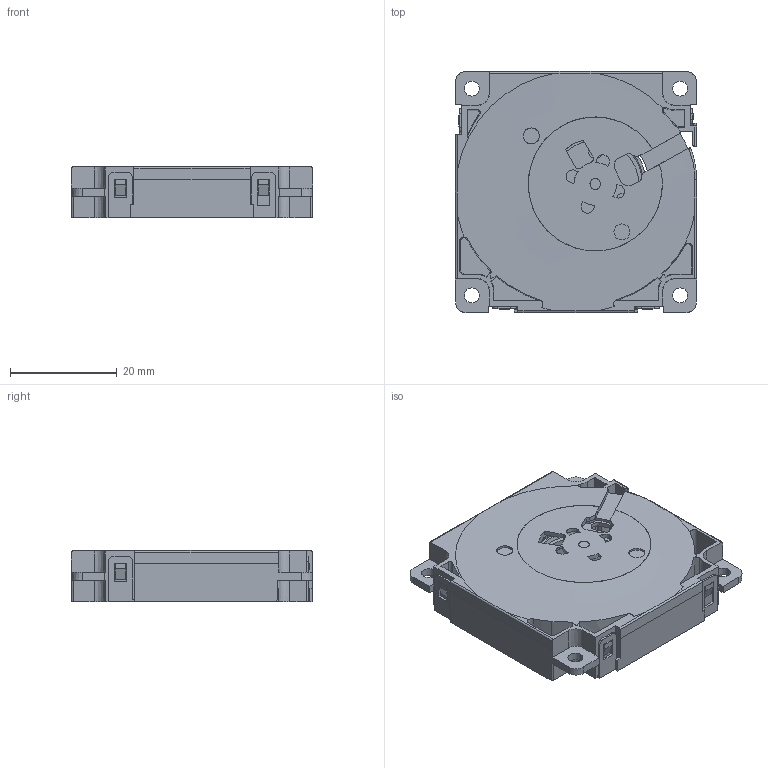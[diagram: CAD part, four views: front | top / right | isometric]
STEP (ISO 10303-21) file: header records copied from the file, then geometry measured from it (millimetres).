
FILE_DESCRIPTION(/* description */ (''),/* implementation_level */ '2;1');
FILE_NAME(/* name */ '4510鼓风机-A465A-A466A-D143A.stp',/* time_stamp */ '2024-10-12T13:30:06+08:00',/* author */ (''),/* organization */ (''),/* preprocessor_version */ 'ST-DEVELOPER v16',/* originating_system */ 'SIEMENS PLM Software NX 10.0',/* authorisation */ '');
FILE_SCHEMA (('CONFIG_CONTROL_DESIGN'));
Length unit declared in the file: millimetre
Products named in the file (3): 001; 4510XG; LK350-4510XG-PBT-1+2_1__stp
Assembly tree (2 placements, depth 2):
  LK350-4510XG-PBT-1+2_1__stp
    4510XG
    001
Bounding box: 45.23 x 45.23 x 9.6 mm (x, y, z)
Volume: 6108.1 mm3; surface area: 14122.5 mm2
Topology: 3 solids, 3 shells, 922 faces, 2877 edges, 1896 vertices
Faces by surface type: cone 410, plane 309, cylinder 110, torus 43, bspline 42, revolution 5, extrusion 2, sphere 1
Full cylindrical faces by diameter (mm): 2.01 x1, 2.5 x3, 16.281 x1
Entity records: 38799 total; most frequent: CARTESIAN_POINT 13218, ORIENTED_EDGE 5710, DIRECTION 5184, EDGE_CURVE 2855, AXIS2_PLACEMENT_3D 2188, VERTEX_POINT 1888, CIRCLE 1271, EDGE_LOOP 985
